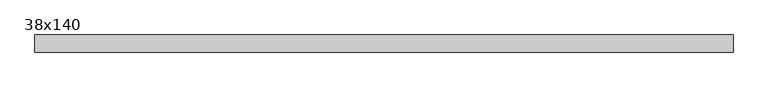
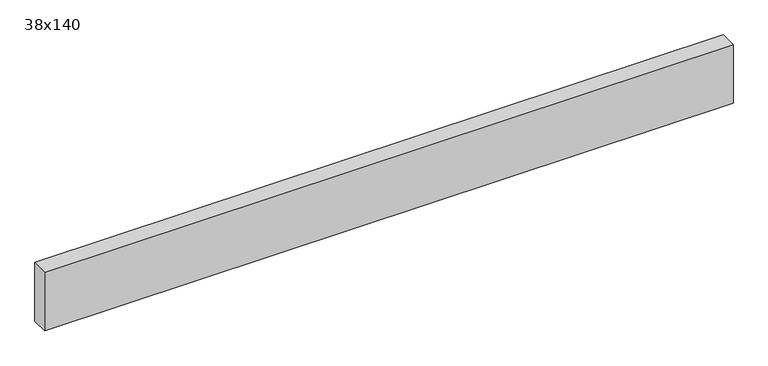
"""IFC4 building model written with IfcOpenShell, lengths in millimetres: beam geometry, Graded Timber : 38x140."""

from ifc_helpers import new_model, si_unit, frame, origin, place, context, project, spatial, polyline, outline, extrude, source, transform, mapped, element, save


def beam_38x140_8ceb008d(model_context):
    return source(origin(), model_context, "Body", "SweptSolid", [
        extrude(outline(polyline([(728.3063523, 19.0), (728.3063523, -19.0), (-820.0, -19.0), (-820.0, 19.0), (728.3063523, 19.0)])), frame((0.0, 0.0, -70.0), z_axis=(0.0, 0.0, 1.0), x_axis=(1.0, 0.0, 0.0)), (0.0, 0.0, 1.0), 140.0),
    ])


if __name__ == "__main__":
    model = new_model("IFC4")
    model_context = context("Model", 3, world=origin())
    ifc_project = project(units=[si_unit("LENGTHUNIT", "METRE", prefix="MILLI")], contexts=[model_context])
    site = spatial("IfcSite", under=ifc_project)
    building = spatial("IfcBuilding", under=site)
    placement = place(None, origin())
    beam_38x140_shape = beam_38x140_8ceb008d(model_context)
    element("IfcBeam", 1, ObjectType="Graded Timber : 38x140", at=placement, inside=building, context=model_context, shape_type="MappedRepresentation", body=[
        mapped(beam_38x140_shape, transform((0.0, 0.0, 0.0), x_axis=(1.0, 0.0, 0.0), y_axis=(0.0, 1.0, 0.0), z_axis=(0.0, 0.0, 1.0))),
    ])
    save(model, "model.ifc")
